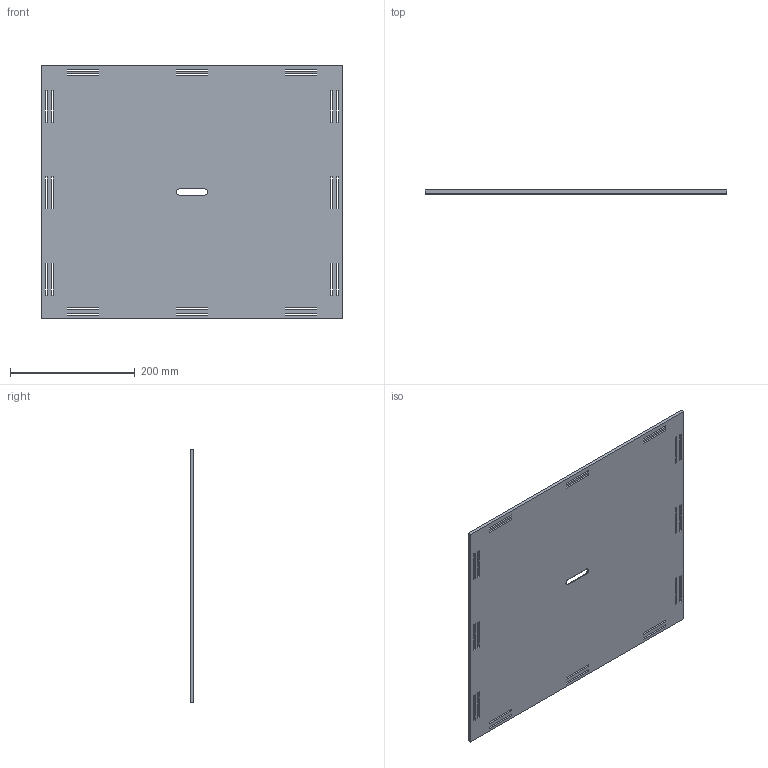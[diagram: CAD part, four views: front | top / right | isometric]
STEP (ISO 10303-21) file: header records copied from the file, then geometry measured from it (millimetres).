
FILE_DESCRIPTION (( 'STEP AP203' ), '1' );
FILE_NAME ('HP-Mounting-Plate rev02.STEP', '2026-03-12T23:44:26', ( '' ), ( '' ), 'SwSTEP 2.0', 'SolidWorks 2025', '' );
FILE_SCHEMA (( 'CONFIG_CONTROL_DESIGN' ));
Length unit declared in the file: inch
Products named in the file (1): HP-Mounting-Plate rev02
Bounding box: 482.6 x 6.35 x 406.4 mm (x, y, z)
Volume: 1216169.3 mm3; surface area: 411728.9 mm2
Topology: 1 solids, 1 shells, 110 faces, 320 edges, 212 vertices
Faces by surface type: plane 106, cylinder 2, cone 2
Entity records: 3737 total; most frequent: CARTESIAN_POINT 643, ORIENTED_EDGE 640, DIRECTION 548, EDGE_CURVE 320, LINE 314, VECTOR 314, VERTEX_POINT 212, EDGE_LOOP 160
